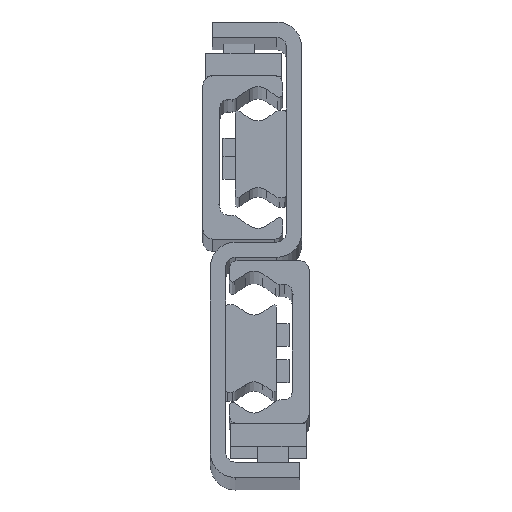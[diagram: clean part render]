
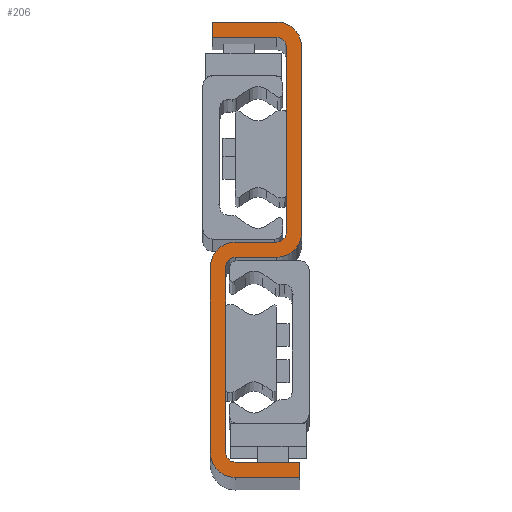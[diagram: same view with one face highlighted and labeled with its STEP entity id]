
A CAD part, top view. The second image highlights one B-rep face of the part: STEP entity #206.
In plain terms, the highlighted planar face has unit normal (0, 0, 1).
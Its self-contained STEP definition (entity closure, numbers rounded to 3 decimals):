
#206=ADVANCED_FACE('',(#769),#770,.T.);
#769=FACE_OUTER_BOUND('',#1711,.T.);
#770=PLANE('',#1712);
#1711=EDGE_LOOP('',(#3373,#3374,#3375,#3376,#3377,#3378,#3379,#3380,#3381,#3382,#3383,#3384,#3385,#3386,#3387,#3388,#3389,#3390,#3391,#3392));
#1712=AXIS2_PLACEMENT_3D('',#3393,#3394,#3395);
#3373=ORIENTED_EDGE('',*,*,#6017,.F.);
#3374=ORIENTED_EDGE('',*,*,#6075,.F.);
#3375=ORIENTED_EDGE('',*,*,#6072,.F.);
#3376=ORIENTED_EDGE('',*,*,#6069,.F.);
#3377=ORIENTED_EDGE('',*,*,#6066,.F.);
#3378=ORIENTED_EDGE('',*,*,#6063,.F.);
#3379=ORIENTED_EDGE('',*,*,#6060,.F.);
#3380=ORIENTED_EDGE('',*,*,#6057,.F.);
#3381=ORIENTED_EDGE('',*,*,#6054,.F.);
#3382=ORIENTED_EDGE('',*,*,#6051,.F.);
#3383=ORIENTED_EDGE('',*,*,#6048,.F.);
#3384=ORIENTED_EDGE('',*,*,#6045,.F.);
#3385=ORIENTED_EDGE('',*,*,#6042,.F.);
#3386=ORIENTED_EDGE('',*,*,#6039,.F.);
#3387=ORIENTED_EDGE('',*,*,#6036,.F.);
#3388=ORIENTED_EDGE('',*,*,#6033,.F.);
#3389=ORIENTED_EDGE('',*,*,#6030,.F.);
#3390=ORIENTED_EDGE('',*,*,#6027,.F.);
#3391=ORIENTED_EDGE('',*,*,#6024,.F.);
#3392=ORIENTED_EDGE('',*,*,#6021,.F.);
#3393=CARTESIAN_POINT('',(-14.,26.,2853.0));
#3394=DIRECTION('',(0.0,0.0,1.0));
#3395=DIRECTION('',(1.0,0.0,0.0));
#6017=EDGE_CURVE('',#7275,#7276,#7277,.T.);
#6021=EDGE_CURVE('',#7276,#7283,#7284,.T.);
#6024=EDGE_CURVE('',#7283,#7288,#7289,.T.);
#6027=EDGE_CURVE('',#7288,#7293,#7294,.T.);
#6030=EDGE_CURVE('',#7293,#7298,#7299,.T.);
#6033=EDGE_CURVE('',#7298,#7303,#7304,.T.);
#6036=EDGE_CURVE('',#7303,#7308,#7309,.T.);
#6039=EDGE_CURVE('',#7308,#7313,#7314,.T.);
#6042=EDGE_CURVE('',#7313,#7318,#7319,.T.);
#6045=EDGE_CURVE('',#7318,#7323,#7324,.T.);
#6048=EDGE_CURVE('',#7323,#7328,#7329,.T.);
#6051=EDGE_CURVE('',#7328,#7333,#7334,.T.);
#6054=EDGE_CURVE('',#7333,#7338,#7339,.T.);
#6057=EDGE_CURVE('',#7338,#7343,#7344,.T.);
#6060=EDGE_CURVE('',#7343,#7348,#7349,.T.);
#6063=EDGE_CURVE('',#7348,#7353,#7354,.T.);
#6066=EDGE_CURVE('',#7353,#7358,#7359,.T.);
#6069=EDGE_CURVE('',#7358,#7363,#7364,.T.);
#6072=EDGE_CURVE('',#7363,#7368,#7369,.T.);
#6075=EDGE_CURVE('',#7368,#7275,#7373,.T.);
#7275=VERTEX_POINT('',#9229);
#7276=VERTEX_POINT('',#9230);
#7277=LINE('',#9231,#9232);
#7283=VERTEX_POINT('',#9241);
#7284=CIRCLE('',#9242,2.5);
#7288=VERTEX_POINT('',#9247);
#7289=LINE('',#9248,#9249);
#7293=VERTEX_POINT('',#9255);
#7294=CIRCLE('',#9256,2.5);
#7298=VERTEX_POINT('',#9261);
#7299=LINE('',#9262,#9263);
#7303=VERTEX_POINT('',#9269);
#7304=LINE('',#9270,#9271);
#7308=VERTEX_POINT('',#9277);
#7309=LINE('',#9278,#9279);
#7313=VERTEX_POINT('',#9285);
#7314=CIRCLE('',#9286,6.5);
#7318=VERTEX_POINT('',#9291);
#7319=LINE('',#9292,#9293);
#7323=VERTEX_POINT('',#9299);
#7324=CIRCLE('',#9300,6.5);
#7328=VERTEX_POINT('',#9305);
#7329=LINE('',#9306,#9307);
#7333=VERTEX_POINT('',#9313);
#7334=CIRCLE('',#9314,2.5);
#7338=VERTEX_POINT('',#9319);
#7339=LINE('',#9320,#9321);
#7343=VERTEX_POINT('',#9327);
#7344=CIRCLE('',#9328,2.5);
#7348=VERTEX_POINT('',#9333);
#7349=LINE('',#9334,#9335);
#7353=VERTEX_POINT('',#9341);
#7354=LINE('',#9342,#9343);
#7358=VERTEX_POINT('',#9349);
#7359=LINE('',#9350,#9351);
#7363=VERTEX_POINT('',#9357);
#7364=CIRCLE('',#9358,6.5);
#7368=VERTEX_POINT('',#9363);
#7369=LINE('',#9364,#9365);
#7373=CIRCLE('',#9371,6.5);
#9229=CARTESIAN_POINT('',(-8.5,24.,2853.0));
#9230=CARTESIAN_POINT('',(-19.5,24.,2853.0));
#9231=CARTESIAN_POINT('',(-8.5,24.,2853.0));
#9232=VECTOR('',#11385,1.0);
#9241=CARTESIAN_POINT('',(-22.,21.5,2853.0));
#9242=AXIS2_PLACEMENT_3D('',#11389,#11390,#11391);
#9247=CARTESIAN_POINT('',(-22.,-27.5,2853.0));
#9248=CARTESIAN_POINT('',(-22.,-27.5,2853.0));
#9249=VECTOR('',#11396,1.0);
#9255=CARTESIAN_POINT('',(-19.5,-30.,2853.0));
#9256=AXIS2_PLACEMENT_3D('',#11399,#11400,#11401);
#9261=CARTESIAN_POINT('',(-2.5,-30.,2853.0));
#9262=CARTESIAN_POINT('',(-19.5,-30.,2853.0));
#9263=VECTOR('',#11406,1.0);
#9269=CARTESIAN_POINT('',(-2.5,-34.,2853.0));
#9270=CARTESIAN_POINT('',(-2.5,-34.,2853.0));
#9271=VECTOR('',#11409,1.0);
#9277=CARTESIAN_POINT('',(-19.5,-34.,2853.0));
#9278=CARTESIAN_POINT('',(-19.5,-34.,2853.0));
#9279=VECTOR('',#11412,1.0);
#9285=CARTESIAN_POINT('',(-26.,-27.5,2853.0));
#9286=AXIS2_PLACEMENT_3D('',#11415,#11416,#11417);
#9291=CARTESIAN_POINT('',(-26.,21.5,2853.0));
#9292=CARTESIAN_POINT('',(-26.,21.5,2853.0));
#9293=VECTOR('',#11422,1.0);
#9299=CARTESIAN_POINT('',(-19.5,28.,2853.0));
#9300=AXIS2_PLACEMENT_3D('',#11425,#11426,#11427);
#9305=CARTESIAN_POINT('',(-8.5,28.,2853.0));
#9306=CARTESIAN_POINT('',(-8.5,28.,2853.0));
#9307=VECTOR('',#11432,1.0);
#9313=CARTESIAN_POINT('',(-6.,30.5,2853.0));
#9314=AXIS2_PLACEMENT_3D('',#11435,#11436,#11437);
#9319=CARTESIAN_POINT('',(-6.,79.5,2853.0));
#9320=CARTESIAN_POINT('',(-6.,79.5,2853.0));
#9321=VECTOR('',#11442,1.0);
#9327=CARTESIAN_POINT('',(-8.5,82.,2853.0));
#9328=AXIS2_PLACEMENT_3D('',#11445,#11446,#11447);
#9333=CARTESIAN_POINT('',(-25.5,82.,2853.0));
#9334=CARTESIAN_POINT('',(-25.5,82.,2853.0));
#9335=VECTOR('',#11452,1.0);
#9341=CARTESIAN_POINT('',(-25.5,86.,2853.0));
#9342=CARTESIAN_POINT('',(-25.5,86.,2853.0));
#9343=VECTOR('',#11455,1.0);
#9349=CARTESIAN_POINT('',(-8.5,86.,2853.0));
#9350=CARTESIAN_POINT('',(-25.5,86.,2853.0));
#9351=VECTOR('',#11458,1.0);
#9357=CARTESIAN_POINT('',(-2.,79.5,2853.0));
#9358=AXIS2_PLACEMENT_3D('',#11461,#11462,#11463);
#9363=CARTESIAN_POINT('',(-2.,30.5,2853.0));
#9364=CARTESIAN_POINT('',(-2.,79.5,2853.0));
#9365=VECTOR('',#11468,1.0);
#9371=AXIS2_PLACEMENT_3D('',#11471,#11472,#11473);
#11385=DIRECTION('',(-1.0,0.,0.0));
#11389=CARTESIAN_POINT('',(-19.5,21.5,2853.0));
#11390=DIRECTION('',(0.0,0.0,1.0));
#11391=DIRECTION('',(1.0,0.0,0.0));
#11396=DIRECTION('',(-0.0,-1.0,-0.0));
#11399=CARTESIAN_POINT('',(-19.5,-27.5,2853.0));
#11400=DIRECTION('',(0.0,0.0,1.0));
#11401=DIRECTION('',(1.0,0.0,0.0));
#11406=DIRECTION('',(1.,0.,0.0));
#11409=DIRECTION('',(-0.0,-1.0,-0.0));
#11412=DIRECTION('',(-1.,0.,-0.0));
#11415=CARTESIAN_POINT('',(-19.5,-27.5,2853.0));
#11416=DIRECTION('',(0.0,0.0,-1.0));
#11417=DIRECTION('',(1.0,0.0,0.0));
#11422=DIRECTION('',(0.0,1.0,0.0));
#11425=CARTESIAN_POINT('',(-19.5,21.5,2853.0));
#11426=DIRECTION('',(0.0,0.0,-1.0));
#11427=DIRECTION('',(1.0,0.0,0.0));
#11432=DIRECTION('',(1.0,0.,0.0));
#11435=CARTESIAN_POINT('',(-8.5,30.5,2853.0));
#11436=DIRECTION('',(0.0,0.0,1.0));
#11437=DIRECTION('',(1.0,0.0,0.0));
#11442=DIRECTION('',(0.0,1.0,0.0));
#11445=CARTESIAN_POINT('',(-8.5,79.5,2853.0));
#11446=DIRECTION('',(0.0,0.0,1.0));
#11447=DIRECTION('',(1.0,0.0,0.0));
#11452=DIRECTION('',(-1.,0.,0.0));
#11455=DIRECTION('',(0.0,1.0,0.0));
#11458=DIRECTION('',(1.,0.,0.0));
#11461=CARTESIAN_POINT('',(-8.5,79.5,2853.0));
#11462=DIRECTION('',(0.0,0.0,-1.0));
#11463=DIRECTION('',(1.0,0.0,0.0));
#11468=DIRECTION('',(0.,-1.0,0.0));
#11471=CARTESIAN_POINT('',(-8.5,30.5,2853.0));
#11472=DIRECTION('',(0.0,0.0,-1.0));
#11473=DIRECTION('',(1.0,0.0,0.0));
